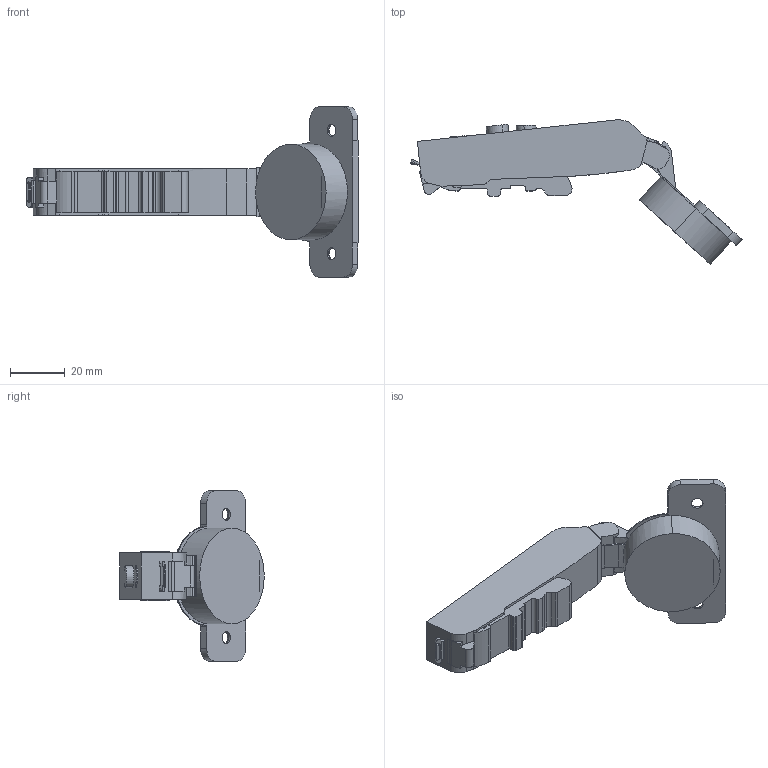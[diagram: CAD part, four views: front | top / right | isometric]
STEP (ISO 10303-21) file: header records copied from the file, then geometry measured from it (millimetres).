
FILE_DESCRIPTION (( 'STEP AP203' ), '1' );
FILE_NAME ('C81W875FAB DTC 3D OPEN.STEP', '2024-07-26T00:48:14', ( '微软用户' ), ( '微软中国' ), 'SwSTEP 2.0', 'SolidWorks 2021', '' );
FILE_SCHEMA (( 'CONFIG_CONTROL_DESIGN' ));
Length unit declared in the file: millimetre
Products named in the file (1): C81W875FAB DTC 3D OPEN
Bounding box: 121.01 x 52.66 x 62 mm (x, y, z)
Volume: 44430.3 mm3; surface area: 13091.1 mm2
Topology: 1 solids, 2 shells, 296 faces, 835 edges, 551 vertices
Faces by surface type: cylinder 133, plane 128, torus 23, bspline 6, cone 6
Entity records: 9942 total; most frequent: CARTESIAN_POINT 2124, ORIENTED_EDGE 1670, DIRECTION 1617, EDGE_CURVE 835, AXIS2_PLACEMENT_3D 574, VERTEX_POINT 551, VECTOR 469, LINE 469
